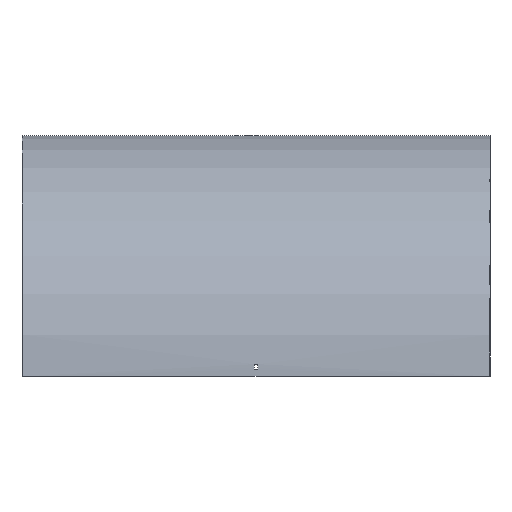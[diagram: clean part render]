
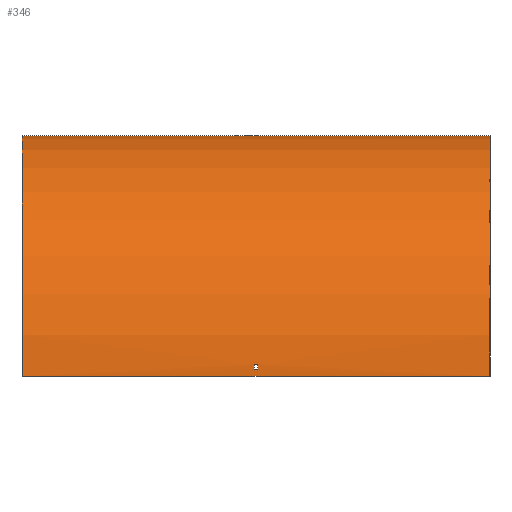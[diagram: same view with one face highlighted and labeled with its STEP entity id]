
A CAD part, top view. The second image highlights one B-rep face of the part: STEP entity #346.
In plain terms, the highlighted cylindrical face has radius 414 mm (diameter 828 mm), a partial arc.
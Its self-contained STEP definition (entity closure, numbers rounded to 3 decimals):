
#12 = FACE_BOUND ( 'NONE', #432, .T. ) ;
#19 = AXIS2_PLACEMENT_3D ( 'NONE', #196, #348, #535 ) ;
#22 = ORIENTED_EDGE ( 'NONE', *, *, #496, .F. ) ;
#23 = CARTESIAN_POINT ( 'NONE',  ( -3.25, -393., 413.467 ) ) ;
#24 = VERTEX_POINT ( 'NONE', #27 ) ;
#27 = CARTESIAN_POINT ( 'NONE',  ( 401.5, -414., 414. ) ) ;
#36 = DIRECTION ( 'NONE',  ( -1., 0., 0. ) ) ;
#41 = EDGE_CURVE ( 'NONE', #486, #76, #380, .T. ) ;
#49 = AXIS2_PLACEMENT_3D ( 'NONE', #248, #302, #490 ) ;
#51 = CARTESIAN_POINT ( 'NONE',  ( -401.5, -414., 0. ) ) ;
#54 = CARTESIAN_POINT ( 'NONE',  ( 3.25, -402., 413.826 ) ) ;
#58 = ORIENTED_EDGE ( 'NONE', *, *, #265, .T. ) ;
#59 = VECTOR ( 'NONE', #542, 1000. ) ;
#71 = AXIS2_PLACEMENT_3D ( 'NONE', #51, #528, #471 ) ;
#75 = ORIENTED_EDGE ( 'NONE', *, *, #384, .F. ) ;
#76 = VERTEX_POINT ( 'NONE', #216 ) ;
#81 = EDGE_CURVE ( 'NONE', #339, #441, #419, .T. ) ;
#82 = LINE ( 'NONE', #126, #137 ) ;
#87 = LINE ( 'NONE', #92, #109 ) ;
#89 = CARTESIAN_POINT ( 'NONE',  ( -3.25, -414., 0. ) ) ;
#92 = CARTESIAN_POINT ( 'NONE',  ( 401.5, -393., 413.467 ) ) ;
#97 = CARTESIAN_POINT ( 'NONE',  ( 401.5, -414., 414. ) ) ;
#109 = VECTOR ( 'NONE', #322, 1000. ) ;
#118 = CIRCLE ( 'NONE', #530, 414. ) ;
#126 = CARTESIAN_POINT ( 'NONE',  ( 401.5, -402., 413.826 ) ) ;
#137 = VECTOR ( 'NONE', #446, 1000. ) ;
#138 = LINE ( 'NONE', #97, #342 ) ;
#139 = EDGE_LOOP ( 'NONE', ( #255, #260, #521, #529 ) ) ;
#160 = EDGE_LOOP ( 'NONE', ( #58, #307, #75, #534 ) ) ;
#161 = CARTESIAN_POINT ( 'NONE',  ( -401.5, 0., 0. ) ) ;
#166 = EDGE_CURVE ( 'NONE', #351, #201, #389, .T. ) ;
#175 = LINE ( 'NONE', #227, #548 ) ;
#176 = CARTESIAN_POINT ( 'NONE',  ( -3.25, -402., 413.826 ) ) ;
#179 = CARTESIAN_POINT ( 'NONE',  ( 3.25, -414., 0. ) ) ;
#195 = FACE_OUTER_BOUND ( 'NONE', #160, .T. ) ;
#196 = CARTESIAN_POINT ( 'NONE',  ( 401.5, -414., 0. ) ) ;
#198 = EDGE_CURVE ( 'NONE', #24, #355, #138, .T. ) ;
#201 = VERTEX_POINT ( 'NONE', #176 ) ;
#202 = CARTESIAN_POINT ( 'NONE',  ( 3.25, -393., 413.467 ) ) ;
#203 = CYLINDRICAL_SURFACE ( 'NONE', #19, 414. ) ;
#205 = DIRECTION ( 'NONE',  ( 1., 0., 0. ) ) ;
#210 = EDGE_CURVE ( 'NONE', #555, #282, #118, .T. ) ;
#215 = VERTEX_POINT ( 'NONE', #54 ) ;
#216 = CARTESIAN_POINT ( 'NONE',  ( -3.25, -0.174, 12. ) ) ;
#223 = DIRECTION ( 'NONE',  ( 0., 1., 0. ) ) ;
#227 = CARTESIAN_POINT ( 'NONE',  ( 401.5, -0.533, 21. ) ) ;
#236 = CARTESIAN_POINT ( 'NONE',  ( 3.25, -0.533, 21. ) ) ;
#248 = CARTESIAN_POINT ( 'NONE',  ( 401.5, -414., 0. ) ) ;
#251 = ORIENTED_EDGE ( 'NONE', *, *, #166, .F. ) ;
#255 = ORIENTED_EDGE ( 'NONE', *, *, #469, .T. ) ;
#260 = ORIENTED_EDGE ( 'NONE', *, *, #41, .T. ) ;
#265 = EDGE_CURVE ( 'NONE', #441, #355, #581, .T. ) ;
#273 = CARTESIAN_POINT ( 'NONE',  ( 401.5, 0., 0. ) ) ;
#282 = VERTEX_POINT ( 'NONE', #236 ) ;
#289 = AXIS2_PLACEMENT_3D ( 'NONE', #89, #503, #323 ) ;
#302 = DIRECTION ( 'NONE',  ( 1., 0., 0. ) ) ;
#307 = ORIENTED_EDGE ( 'NONE', *, *, #198, .F. ) ;
#313 = CARTESIAN_POINT ( 'NONE',  ( 3.25, -0.174, 12. ) ) ;
#320 = CARTESIAN_POINT ( 'NONE',  ( -3.25, -414., 0. ) ) ;
#322 = DIRECTION ( 'NONE',  ( -1., 0., 0. ) ) ;
#323 = DIRECTION ( 'NONE',  ( 0., 0., 1. ) ) ;
#339 = VERTEX_POINT ( 'NONE', #473 ) ;
#342 = VECTOR ( 'NONE', #418, 1000. ) ;
#346 = ADVANCED_FACE ( 'NONE', ( #195, #383, #12 ), #203, .T. ) ;
#348 = DIRECTION ( 'NONE',  ( -1., 0., 0. ) ) ;
#351 = VERTEX_POINT ( 'NONE', #23 ) ;
#355 = VERTEX_POINT ( 'NONE', #488 ) ;
#363 = AXIS2_PLACEMENT_3D ( 'NONE', #179, #504, #367 ) ;
#367 = DIRECTION ( 'NONE',  ( 0., 0., 1. ) ) ;
#374 = ORIENTED_EDGE ( 'NONE', *, *, #492, .F. ) ;
#380 = CIRCLE ( 'NONE', #289, 414. ) ;
#383 = FACE_BOUND ( 'NONE', #139, .T. ) ;
#384 = EDGE_CURVE ( 'NONE', #339, #24, #510, .T. ) ;
#389 = CIRCLE ( 'NONE', #563, 414. ) ;
#418 = DIRECTION ( 'NONE',  ( -1., 0., 0. ) ) ;
#419 = LINE ( 'NONE', #273, #59 ) ;
#432 = EDGE_LOOP ( 'NONE', ( #251, #22, #374, #438 ) ) ;
#438 = ORIENTED_EDGE ( 'NONE', *, *, #544, .F. ) ;
#441 = VERTEX_POINT ( 'NONE', #161 ) ;
#445 = VECTOR ( 'NONE', #460, 1000. ) ;
#446 = DIRECTION ( 'NONE',  ( 1., 0., 0. ) ) ;
#448 = EDGE_CURVE ( 'NONE', #76, #555, #453, .T. ) ;
#453 = LINE ( 'NONE', #598, #445 ) ;
#460 = DIRECTION ( 'NONE',  ( 1., 0., 0. ) ) ;
#462 = CARTESIAN_POINT ( 'NONE',  ( 3.25, -414., 0. ) ) ;
#469 = EDGE_CURVE ( 'NONE', #282, #486, #175, .T. ) ;
#471 = DIRECTION ( 'NONE',  ( 0., 0., -1. ) ) ;
#473 = CARTESIAN_POINT ( 'NONE',  ( 401.5, 0., 0. ) ) ;
#486 = VERTEX_POINT ( 'NONE', #500 ) ;
#487 = CIRCLE ( 'NONE', #363, 414. ) ;
#488 = CARTESIAN_POINT ( 'NONE',  ( -401.5, -414., 414. ) ) ;
#490 = DIRECTION ( 'NONE',  ( 0., 0., -1. ) ) ;
#492 = EDGE_CURVE ( 'NONE', #215, #574, #487, .T. ) ;
#496 = EDGE_CURVE ( 'NONE', #574, #351, #87, .T. ) ;
#500 = CARTESIAN_POINT ( 'NONE',  ( -3.25, -0.533, 21. ) ) ;
#503 = DIRECTION ( 'NONE',  ( -1., 0., 0. ) ) ;
#504 = DIRECTION ( 'NONE',  ( -1., 0., 0. ) ) ;
#510 = CIRCLE ( 'NONE', #49, 414. ) ;
#521 = ORIENTED_EDGE ( 'NONE', *, *, #448, .T. ) ;
#528 = DIRECTION ( 'NONE',  ( 1., 0., 0. ) ) ;
#529 = ORIENTED_EDGE ( 'NONE', *, *, #210, .T. ) ;
#530 = AXIS2_PLACEMENT_3D ( 'NONE', #462, #205, #577 ) ;
#534 = ORIENTED_EDGE ( 'NONE', *, *, #81, .T. ) ;
#535 = DIRECTION ( 'NONE',  ( 0., 0., 1. ) ) ;
#542 = DIRECTION ( 'NONE',  ( -1., 0., 0. ) ) ;
#544 = EDGE_CURVE ( 'NONE', #201, #215, #82, .T. ) ;
#548 = VECTOR ( 'NONE', #36, 1000. ) ;
#550 = DIRECTION ( 'NONE',  ( 1., 0., 0. ) ) ;
#555 = VERTEX_POINT ( 'NONE', #313 ) ;
#563 = AXIS2_PLACEMENT_3D ( 'NONE', #320, #550, #223 ) ;
#574 = VERTEX_POINT ( 'NONE', #202 ) ;
#577 = DIRECTION ( 'NONE',  ( 0., 0., -1. ) ) ;
#581 = CIRCLE ( 'NONE', #71, 414. ) ;
#598 = CARTESIAN_POINT ( 'NONE',  ( 401.5, -0.174, 12. ) ) ;
